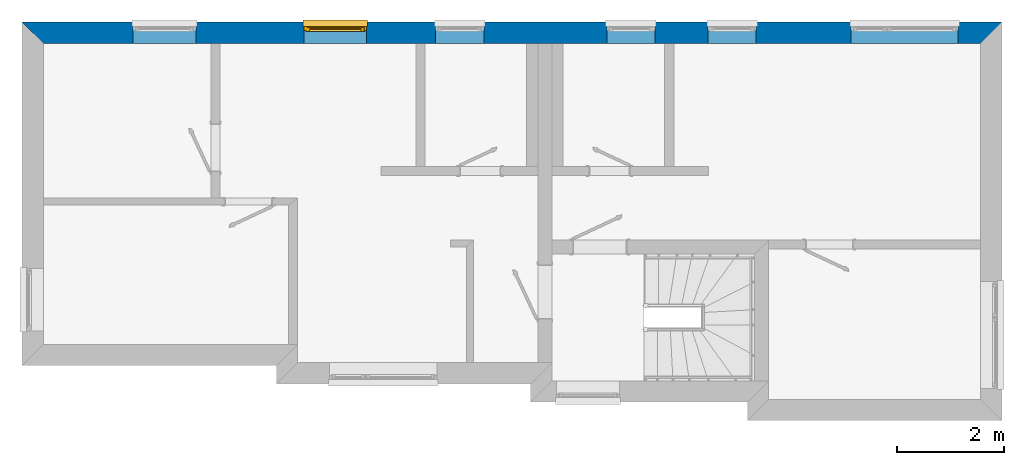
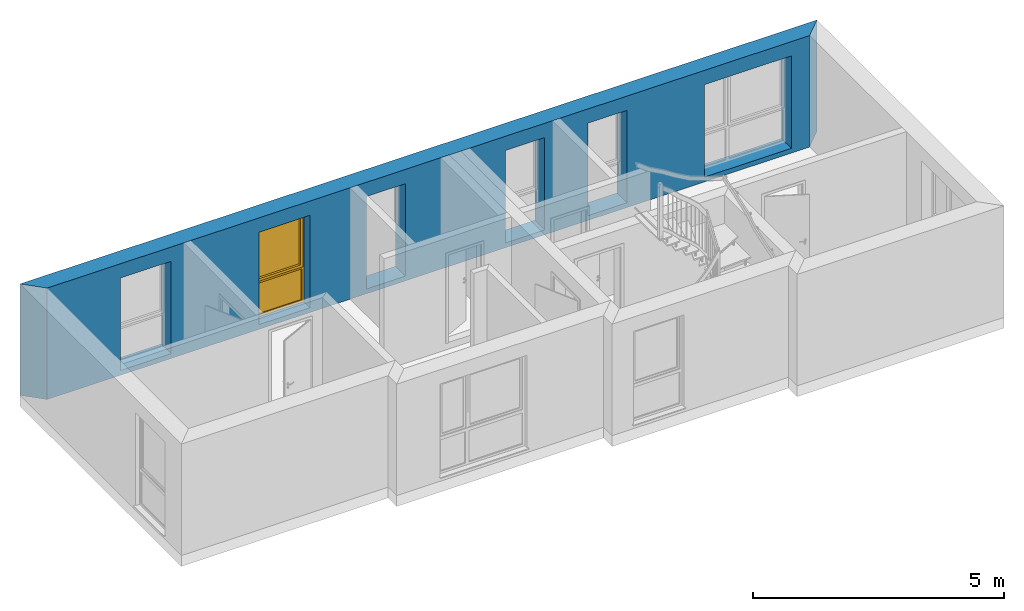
# One storey, part 10 of 16: 1 wall, 1 window, 6 openings.
"""IFC2X3 building model written with IfcOpenShell, lengths in millimetres."""

import ifcopenshell
import ifcopenshell.guid

model = None  # the IFC model being written
_history = None  # IfcOwnerHistory: only IFC2X3 demands one
_inside = {}  # id of a spatial element -> (the spatial element, [elements in it])
_under = {}  # id of a project, library or spatial element -> (it, [spatial elements below it])
_declared = {}  # id of a project -> (the project, [libraries it declares])
_typed = {}  # id of a type object -> (the type object, [elements of that type])
_made_of = {}  # id of a material, layer set ... -> (it, [elements and type objects made of it])


def new_model(schema):
    """Start an empty IFC model of exactly this schema.

    Asked for "IFC4X3", IfcOpenShell would pick the latest addendum, in which some entities
    have other attributes; the version numbers below select the first issue.
    IFC2X3 requires an IfcOwnerHistory on every rooted entity: one is made here for all.
    """
    global model, _history
    if schema == "IFC4X3":
        model = ifcopenshell.file(schema_version=(4, 3, 0, 0))
    else:
        model = ifcopenshell.file(schema=schema)
    _inside.clear()
    _under.clear()
    _declared.clear()
    _typed.clear()
    _made_of.clear()
    _history = None
    if model.schema == "IFC2X3":
        org = make("IfcOrganization", Name="unknown")
        user = make(
            "IfcPersonAndOrganization",
            ThePerson=make("IfcPerson", FamilyName="unknown"),
            TheOrganization=org,
        )
        app = make(
            "IfcApplication",
            ApplicationDeveloper=org,
            Version="unknown",
            ApplicationFullName="unknown",
            ApplicationIdentifier="unknown",
        )
        _history = make(
            "IfcOwnerHistory",
            OwningUser=user,
            OwningApplication=app,
            ChangeAction="ADDED",
            CreationDate=0,
        )
    return model


def make(cls, **values):
    """One entity of the class cls with the attributes given. An attribute that is None is left unset."""
    return model.create_entity(
        cls, **{name: value for name, value in values.items() if value is not None}
    )


def rooted(cls, **values):
    """An entity with a GlobalId (a new one), such as an element, a storey or a relation."""
    return make(cls, GlobalId=ifcopenshell.guid.new(), OwnerHistory=_history, **values)


def si_unit(unit_type, name, prefix=None):
    """IfcSIUnit, for example si_unit("LENGTHUNIT", "METRE", prefix="MILLI")."""
    return make("IfcSIUnit", UnitType=unit_type, Prefix=prefix, Name=name)


def assignment(units):
    """IfcUnitAssignment: the units of a project."""
    return None if units is None else make("IfcUnitAssignment", Units=units)


def point(xyz):
    """IfcCartesianPoint."""
    return None if xyz is None else make("IfcCartesianPoint", Coordinates=xyz)


def direction(xyz):
    """IfcDirection."""
    return None if xyz is None else make("IfcDirection", DirectionRatios=xyz)


def frame(location, z_axis=None, x_axis=None):
    """IfcAxis2Placement3D, a coordinate frame: its origin and axes. An axis left out is left unset."""
    return make(
        "IfcAxis2Placement3D",
        Location=point(location),
        Axis=direction(z_axis),
        RefDirection=direction(x_axis),
    )


def origin_with_axes():
    """The frame at (0, 0, 0) with the z axis (0, 0, 1) and the x axis (1, 0, 0) written out."""
    return frame((0.0, 0.0, 0.0), z_axis=(0.0, 0.0, 1.0), x_axis=(1.0, 0.0, 0.0))


def place(relative_to, where):
    """IfcLocalPlacement: puts the frame where relative to a parent placement (None: the world)."""
    return make(
        "IfcLocalPlacement", PlacementRelTo=relative_to, RelativePlacement=where
    )


def context(
    kind, dimensions, precision=None, world=None, true_north=None, identifier=None
):
    """IfcGeometricRepresentationContext, for example the 3D "Model" context."""
    return make(
        "IfcGeometricRepresentationContext",
        ContextIdentifier=identifier,
        ContextType=kind,
        CoordinateSpaceDimension=dimensions,
        Precision=precision,
        WorldCoordinateSystem=world,
        TrueNorth=true_north,
    )


def project(units=None, contexts=None):
    """IfcProject with its units and contexts."""
    return rooted(
        "IfcProject",
        Name="project",
        RepresentationContexts=contexts,
        UnitsInContext=assignment(units),
    )


def spatial(cls, under=None, at=None, **own):
    """A site, building, storey or space (cls), placed at a placement, below another one or the project."""
    s = rooted(cls, ObjectPlacement=at, **own)
    if under is not None:
        _under.setdefault(under.id(), (under, []))[1].append(s)
    return s


def faces_of(points, faces, orient=None, outer=None):
    """IfcFace entities. A face is a list of loops; a loop is a list of indices into points, from 0.

    orient and outer hold one flag for each loop. By default every Orientation is true, the
    first loop of a face is its IfcFaceOuterBound and the others are IfcFaceBound.
    """
    made = []
    for i, loops in enumerate(faces):
        bounds = []
        for j, loop in enumerate(loops):
            is_outer = j == 0 if outer is None else outer[i][j]
            bounds.append(
                make(
                    "IfcFaceOuterBound" if is_outer else "IfcFaceBound",
                    Bound=make("IfcPolyLoop", Polygon=[points[k] for k in loop]),
                    Orientation=True if orient is None else orient[i][j],
                )
            )
        made.append(make("IfcFace", Bounds=bounds))
    return made


def faceted_brep(points, faces, orient=None, outer=None, voids=None):
    """IfcFacetedBrep: a solid bounded by flat faces; with voids (closed shells), ...WithVoids."""
    shared = [point(p) for p in points]
    hull = make("IfcClosedShell", CfsFaces=faces_of(shared, faces, orient, outer))
    if voids is None:
        return make("IfcFacetedBrep", Outer=hull)
    return make(
        "IfcFacetedBrepWithVoids",
        Outer=hull,
        Voids=[
            make(cls, CfsFaces=faces_of(shared, fs, o, b)) for cls, fs, o, b in voids
        ],
    )


def shape(context_of_items, identifier, shape_type, items):
    """IfcShapeRepresentation: the items that make up one representation, for example the "Body"."""
    return make(
        "IfcShapeRepresentation",
        ContextOfItems=context_of_items,
        RepresentationIdentifier=identifier,
        RepresentationType=shape_type,
        Items=items,
    )


def material(Name=None, Category=None):
    """IfcMaterial."""
    return make("IfcMaterial", Name=Name, Category=Category)


def layer(
    of_material, thickness, ventilated=None, Name=None, Category=None, Priority=None
):
    """IfcMaterialLayer: one layer of a wall or slab, of a material (None: an air gap)."""
    return make(
        "IfcMaterialLayer",
        Material=of_material,
        LayerThickness=thickness,
        IsVentilated=ventilated,
        Name=Name,
        Category=Category,
        Priority=Priority,
    )


def layer_set(layers, Name=None):
    """IfcMaterialLayerSet."""
    return make("IfcMaterialLayerSet", MaterialLayers=layers, LayerSetName=Name)


def layer_usage(for_layer_set, set_direction, sense, offset, extent=None):
    """IfcMaterialLayerSetUsage: how a layer set lies in its element."""
    return make(
        "IfcMaterialLayerSetUsage",
        ForLayerSet=for_layer_set,
        LayerSetDirection=set_direction,
        DirectionSense=sense,
        OffsetFromReferenceLine=offset,
        ReferenceExtent=extent,
    )


def made_of(thing, what):
    """Note that an element or type object is made of a material, layer set ...; save() writes the relation."""
    if what is not None:
        _made_of.setdefault(what.id(), (what, []))[1].append(thing)
    return thing


def type_object(cls, material=None, **own):
    """A type object (cls), such as IfcWallType, which elements share."""
    return made_of(rooted(cls, **own), material)


def element(
    cls,
    number,
    at=None,
    inside=None,
    cuts=None,
    type_object=None,
    material=None,
    context=None,
    identifier="Body",
    shape_type=None,
    held_by="IfcProductDefinitionShape",
    body=None,
    shapes=None,
    **own,
):
    """One element of the class cls, such as IfcWall. Its Tag is "e" and its number.

    at: its placement. inside: the storey or other place that contains it. cuts: it is an
    opening in that element (IfcRelVoidsElement). A single representation is given by context,
    identifier, shape_type and body (its items); several are given by shapes. held_by: the class
    of the entity that holds the representations. save() writes the other relations.
    """
    e = rooted(cls, Tag="e%d" % number, ObjectPlacement=at, **own)
    if body is not None:
        shapes = [shape(context, identifier, shape_type, body)]
    if shapes is not None:
        e.Representation = make(held_by, Representations=shapes)
    if inside is not None:
        _inside.setdefault(inside.id(), (inside, []))[1].append(e)
    if cuts is not None:
        rooted(
            "IfcRelVoidsElement", RelatingBuildingElement=cuts, RelatedOpeningElement=e
        )
    if type_object is not None:
        _typed.setdefault(type_object.id(), (type_object, []))[1].append(e)
    return made_of(e, material)


def fill(opening, filler):
    """IfcRelFillsElement: the door or window that sits in an opening."""
    return rooted(
        "IfcRelFillsElement",
        RelatingOpeningElement=opening,
        RelatedBuildingElement=filler,
    )


def aggregate(whole, parts):
    """IfcRelAggregates: a whole, such as a stair, and the parts it consists of."""
    return rooted("IfcRelAggregates", RelatingObject=whole, RelatedObjects=parts)


def save(model, path):
    """Write the relations noted so far, then the file.

    IfcRelAggregates (storeys below a building ...), IfcRelContainedInSpatialStructure (elements
    in a storey), IfcRelDefinesByType, IfcRelAssociatesMaterial and IfcRelDeclares: one each for
    every whole, place, type object, material and project.
    """
    for whole, parts in _under.values():
        aggregate(whole, parts)
    for where, things in _inside.values():
        rooted(
            "IfcRelContainedInSpatialStructure",
            RelatedElements=things,
            RelatingStructure=where,
        )
    for kind, things in _typed.values():
        rooted("IfcRelDefinesByType", RelatedObjects=things, RelatingType=kind)
    for what, things in _made_of.values():
        rooted("IfcRelAssociatesMaterial", RelatedObjects=things, RelatingMaterial=what)
    for by, libraries in _declared.values():
        rooted("IfcRelDeclares", RelatingContext=by, RelatedDefinitions=libraries)
    model.write(path)


model = new_model("IFC2X3")

# Units and contexts
model_context = context("Model", 3, world=origin_with_axes())
ifc_project = project(units=[si_unit("LENGTHUNIT", "METRE", prefix="MILLI")], contexts=[model_context])

# Site, building, storey
site_placement = place(None, origin_with_axes())
site = spatial("IfcSite", under=ifc_project, at=site_placement, Name="Site", CompositionType="ELEMENT")
building_placement = place(site_placement, origin_with_axes())
building = spatial("IfcBuilding", under=site, at=building_placement, Name="?", CompositionType="ELEMENT")
storey_placement = place(building_placement, frame((0.0, 0.0, 2969.0), z_axis=(0.0, 0.0, 1.0), x_axis=(1.0, 0.0, 0.0)))
storey = spatial("IfcBuildingStorey", under=building, at=storey_placement, Name="Obergeschoß 1", CompositionType="ELEMENT", Elevation=2969.0)

# Wall, openings, window
ifc_material = material(Name="Material_AW")
ifc_layer = layer(ifc_material, 395.0, ventilated=False)
ifc_layer_set = layer_set([ifc_layer], Name="MaterialLayerSet_AW")
ifc_layer_usage = layer_usage(ifc_layer_set, "AXIS2", "NEGATIVE", 197.5)
wall_placement = place(storey_placement, frame((197.5, -197.5, 0.0), z_axis=(0.0, 0.0, 1.0), x_axis=(1.0, 0.0, 0.0)))
wall = element("IfcWall", 1, at=wall_placement, inside=storey, material=ifc_layer_usage, Name="AW-11", context=model_context, shape_type="Brep", body=[
    faceted_brep([(17707.5008600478, -197.5, 0.0), (17707.5008600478, -197.5, 2707.0), (197.5, -197.5, 2707.0), (197.5, -197.5, 0.0), (18102.5001275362, 197.499999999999, 0.0), (18102.5001275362, 197.499999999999, 2707.0), (17707.5008600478, -197.500000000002, 2707.0), (17707.5008600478, -197.500000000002, 0.0), (-197.500233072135, 197.5, 0.0), (-197.500233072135, 197.5, 2707.0), (18102.5001275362, 197.5, 2707.0), (18102.5001275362, 197.5, 0.0), (197.5, -197.5, 0.0), (197.5, -197.5, 2707.0), (-197.500233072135, 197.5, 2707.0), (-197.500233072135, 197.5, 0.0), (197.5, -197.5, 0.0), (-197.500233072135, 197.5, 0.0), (18102.5001275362, 197.5, 0.0), (17707.5008600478, -197.5, 0.0), (-197.500233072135, 197.5, 2707.0), (197.5, -197.5, 2707.0), (17707.5008600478, -197.5, 2707.0), (18102.5001275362, 197.5, 2707.0)], [[[0, 1, 2, 3]], [[4, 5, 6, 7]], [[8, 9, 10, 11]], [[12, 13, 14, 15]], [[16, 17, 18, 19]], [[20, 21, 22, 23]]]),
])
opening_1_placement = place(wall_placement, frame((5067.5, 0.0, 116.0), z_axis=(0.0, 0.0, 1.0), x_axis=(1.0, 0.0, 0.0)))
opening_1 = element("IfcOpeningElement", 2, at=opening_1_placement, cuts=wall, Name="AW-11|FE11", context=model_context, shape_type="Brep", body=[
    faceted_brep([(0.0, 207.5, 0.0), (0.0, 207.5, 2244.0), (1170.0, 207.5, 2244.0), (1170.0, 207.5, 0.0), (0.0, -207.5, 0.0), (0.0, -207.5, 2244.0), (0.0, 207.5, 2244.0), (0.0, 207.5, 0.0), (1170.0, -207.5, 0.0), (0.0, -207.5, 0.0), (0.0, 207.5, 0.0), (1170.0, 207.5, 0.0), (1170.0, -207.5, 2244.0), (1170.0, -207.5, 0.0), (1170.0, 207.5, 0.0), (1170.0, 207.5, 2244.0), (0.0, -207.5, 2244.0), (1170.0, -207.5, 2244.0), (1170.0, 207.5, 2244.0), (0.0, 207.5, 2244.0), (0.0, -207.5, 0.0), (1170.0, -207.5, 0.0), (1170.0, -207.5, 2244.0), (0.0, -207.5, 2244.0)], [[[0, 1, 2, 3]], [[4, 5, 6, 7]], [[8, 9, 10, 11]], [[12, 13, 14, 15]], [[16, 17, 18, 19]], [[20, 21, 22, 23]]]),
])
opening_2_placement = place(wall_placement, frame((10723.5, 0.0, 116.0), z_axis=(0.0, 0.0, 1.0), x_axis=(1.0, 0.0, 0.0)))
element("IfcOpeningElement", 3, at=opening_2_placement, cuts=wall, Name="AW-11|FE13", context=model_context, shape_type="Brep", body=[
    faceted_brep([(0.0, 207.5, 0.0), (0.0, 207.5, 2244.0), (900.0, 207.5, 2244.0), (900.0, 207.5, 0.0), (0.0, -207.5, 0.0), (0.0, -207.5, 2244.0), (0.0, 207.5, 2244.0), (0.0, 207.5, 0.0), (900.0, -207.5, 0.0), (0.0, -207.5, 0.0), (0.0, 207.5, 0.0), (900.0, 207.5, 0.0), (900.0, -207.5, 2244.0), (900.0, -207.5, 0.0), (900.0, 207.5, 0.0), (900.0, 207.5, 2244.0), (0.0, -207.5, 2244.0), (900.0, -207.5, 2244.0), (900.0, 207.5, 2244.0), (0.0, 207.5, 2244.0), (0.0, -207.5, 0.0), (900.0, -207.5, 0.0), (900.0, -207.5, 2244.0), (0.0, -207.5, 2244.0)], [[[0, 1, 2, 3]], [[4, 5, 6, 7]], [[8, 9, 10, 11]], [[12, 13, 14, 15]], [[16, 17, 18, 19]], [[20, 21, 22, 23]]]),
])
opening_3_placement = place(wall_placement, frame((12613.5, 0.0, 116.0), z_axis=(0.0, 0.0, 1.0), x_axis=(1.0, 0.0, 0.0)))
element("IfcOpeningElement", 4, at=opening_3_placement, cuts=wall, Name="AW-11|FE14", context=model_context, shape_type="Brep", body=[
    faceted_brep([(0.0, 207.5, 0.0), (0.0, 207.5, 2244.0), (900.0, 207.5, 2244.0), (900.0, 207.5, 0.0), (0.0, -207.5, 0.0), (0.0, -207.5, 2244.0), (0.0, 207.5, 2244.0), (0.0, 207.5, 0.0), (900.0, -207.5, 0.0), (0.0, -207.5, 0.0), (0.0, 207.5, 0.0), (900.0, 207.5, 0.0), (900.0, -207.5, 2244.0), (900.0, -207.5, 0.0), (900.0, 207.5, 0.0), (900.0, 207.5, 2244.0), (0.0, -207.5, 2244.0), (900.0, -207.5, 2244.0), (900.0, 207.5, 2244.0), (0.0, 207.5, 2244.0), (0.0, -207.5, 0.0), (900.0, -207.5, 0.0), (900.0, -207.5, 2244.0), (0.0, -207.5, 2244.0)], [[[0, 1, 2, 3]], [[4, 5, 6, 7]], [[8, 9, 10, 11]], [[12, 13, 14, 15]], [[16, 17, 18, 19]], [[20, 21, 22, 23]]]),
])
opening_4_placement = place(wall_placement, frame((15287.5, 0.0, 116.0), z_axis=(0.0, 0.0, 1.0), x_axis=(1.0, 0.0, 0.0)))
element("IfcOpeningElement", 5, at=opening_4_placement, cuts=wall, Name="AW-11|FE15", context=model_context, shape_type="Brep", body=[
    faceted_brep([(0.0, 207.5, 0.0), (0.0, 207.5, 2244.0), (2000.0, 207.5, 2244.0), (2000.0, 207.5, 0.0), (0.0, -207.5, 0.0), (0.0, -207.5, 2244.0), (0.0, 207.5, 2244.0), (0.0, 207.5, 0.0), (2000.0, -207.5, 0.0), (0.0, -207.5, 0.0), (0.0, 207.5, 0.0), (2000.0, 207.5, 0.0), (2000.0, -207.5, 2244.0), (2000.0, -207.5, 0.0), (2000.0, 207.5, 0.0), (2000.0, 207.5, 2244.0), (0.0, -207.5, 2244.0), (2000.0, -207.5, 2244.0), (2000.0, 207.5, 2244.0), (0.0, 207.5, 2244.0), (0.0, -207.5, 0.0), (2000.0, -207.5, 0.0), (2000.0, -207.5, 2244.0), (0.0, -207.5, 2244.0)], [[[0, 1, 2, 3]], [[4, 5, 6, 7]], [[8, 9, 10, 11]], [[12, 13, 14, 15]], [[16, 17, 18, 19]], [[20, 21, 22, 23]]]),
])
opening_5_placement = place(wall_placement, frame((7527.5, 0.0, 116.0), z_axis=(0.0, 0.0, 1.0), x_axis=(1.0, 0.0, 0.0)))
element("IfcOpeningElement", 6, at=opening_5_placement, cuts=wall, Name="AW-11|FE12", context=model_context, shape_type="Brep", body=[
    faceted_brep([(0.0, 207.5, 0.0), (0.0, 207.5, 2244.0), (900.0, 207.5, 2244.0), (900.0, 207.5, 0.0), (0.0, -207.5, 0.0), (0.0, -207.5, 2244.0), (0.0, 207.5, 2244.0), (0.0, 207.5, 0.0), (900.0, -207.5, 0.0), (0.0, -207.5, 0.0), (0.0, 207.5, 0.0), (900.0, 207.5, 0.0), (900.0, -207.5, 2244.0), (900.0, -207.5, 0.0), (900.0, 207.5, 0.0), (900.0, 207.5, 2244.0), (0.0, -207.5, 2244.0), (900.0, -207.5, 2244.0), (900.0, 207.5, 2244.0), (0.0, 207.5, 2244.0), (0.0, -207.5, 0.0), (900.0, -207.5, 0.0), (900.0, -207.5, 2244.0), (0.0, -207.5, 2244.0)], [[[0, 1, 2, 3]], [[4, 5, 6, 7]], [[8, 9, 10, 11]], [[12, 13, 14, 15]], [[16, 17, 18, 19]], [[20, 21, 22, 23]]]),
])
opening_6_placement = place(wall_placement, frame((1877.5, 0.0, 116.0), z_axis=(0.0, 0.0, 1.0), x_axis=(1.0, 0.0, 0.0)))
element("IfcOpeningElement", 7, at=opening_6_placement, cuts=wall, Name="AW-11|FE10", context=model_context, shape_type="Brep", body=[
    faceted_brep([(0.0, 207.5, 0.0), (0.0, 207.5, 2244.0), (1170.0, 207.5, 2244.0), (1170.0, 207.5, 0.0), (0.0, -207.5, 0.0), (0.0, -207.5, 2244.0), (0.0, 207.5, 2244.0), (0.0, 207.5, 0.0), (1170.0, -207.5, 0.0), (0.0, -207.5, 0.0), (0.0, 207.5, 0.0), (1170.0, 207.5, 0.0), (1170.0, -207.5, 2244.0), (1170.0, -207.5, 0.0), (1170.0, 207.5, 0.0), (1170.0, 207.5, 2244.0), (0.0, -207.5, 2244.0), (1170.0, -207.5, 2244.0), (1170.0, 207.5, 2244.0), (0.0, 207.5, 2244.0), (0.0, -207.5, 0.0), (1170.0, -207.5, 0.0), (1170.0, -207.5, 2244.0), (0.0, -207.5, 2244.0)], [[[0, 1, 2, 3]], [[4, 5, 6, 7]], [[8, 9, 10, 11]], [[12, 13, 14, 15]], [[16, 17, 18, 19]], [[20, 21, 22, 23]]]),
])
window_style = type_object("IfcWindowStyle", Name="FE11", ConstructionType="NOTDEFINED", OperationType="DOUBLE_PANEL_HORIZONTAL", ParameterTakesPrecedence=True, Sizeable=False)
window_placement = place(opening_1_placement, frame((1170.0, 77.5, 0.0), z_axis=(0.0, 0.0, 1.0), x_axis=(-1.0, 0.0, 0.0)))
window = element("IfcWindow", 8, at=window_placement, inside=storey, type_object=window_style, Name="FE11", OverallHeight=2244.0, OverallWidth=1170.0, context=model_context, shape_type="Brep", body=[
    faceted_brep([(0.0, -36.0, 0.0), (1170.0, -36.0, 0.0), (1155.0, -36.0, 15.0), (15.0, -36.0, 15.0), (15.00048828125, 36.0, 15.0), (1155.00048828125, 36.0, 15.0), (1170.00048828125, 36.0, 0.0), (0.00048828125, 36.0, 0.0), (0.0, 36.0, 0.0), (1170.0, 36.0, 0.0), (1170.0, -36.0, 0.0), (0.0, -36.0, 0.0), (1170.0, -36.0, 0.0), (1170.0, -36.0, 2244.0), (1155.0, -36.0, 2229.0), (1155.0, -36.0, 15.0), (1155.0, 36.0, 15.0), (1155.0, 36.0, 2229.0), (1170.0, 36.0, 2244.0), (1170.0, 36.0, 0.0), (1170.0, 36.0, 0.0), (1170.0, 36.0, 2244.0), (1170.0, -36.0, 2244.0), (1170.0, -36.0, 0.0), (1170.0, -36.0, 2244.0), (0.0, -36.0, 2244.0), (15.0, -36.0, 2229.0), (1155.0, -36.0, 2229.0), (1154.99951171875, 36.0, 2229.0), (14.99951171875, 36.0, 2229.0), (-0.00048828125, 36.0, 2244.0), (1169.99951171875, 36.0, 2244.0), (1170.0, 36.0, 2244.0), (0.0, 36.0, 2244.0), (0.0, -36.0, 2244.0), (1170.0, -36.0, 2244.0), (0.0, -36.0, 2244.0), (0.0, -36.0, 0.0), (15.0, -36.0, 15.0), (15.0, -36.0, 2229.0), (15.0, 36.0, 2229.0), (15.0, 36.0, 15.0), (0.0, 36.0, 0.0), (0.0, 36.0, 2244.0), (0.0, 36.0, 2244.0), (0.0, 36.0, 0.0), (0.0, -36.0, 0.0), (0.0, -36.0, 2244.0), (1155.0, 36.0, 15.0), (15.0, 36.0, 15.0), (53.0, 36.0, 53.0), (1117.0, 36.0, 53.0), (1117.0, 36.0, 53.0), (53.0000000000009, 36.0, 53.0), (60.0000000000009, 24.9985352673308, 60.0009767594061), (1110.0, 24.9985352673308, 60.0009767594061), (1110.0, 25.0, 60.0), (60.0, 25.0, 60.0), (60.0, 12.0, 60.0), (1110.0, 12.0, 60.0), (1110.0, -12.0, 60.0), (60.0, -12.0, 60.0), (60.0, -25.0, 60.0), (1110.0, -25.0, 60.0), (1110.0, 12.0, 60.0), (60.0, 12.0, 60.0), (43.0, 12.0, 43.0), (1127.0, 12.0, 43.0), (1127.0, 12.0, 43.0), (43.0, 12.0, 43.0), (43.0, -12.0, 43.0), (1127.0, -12.0, 43.0), (1127.0, -12.0, 43.0), (43.0, -12.0, 43.0), (60.0, -12.0, 60.0), (1110.0, -12.0, 60.0), (1110.0, -25.0, 60.0), (60.0, -25.0, 60.0), (53.0, -36.0014647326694, 52.9990232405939), (1117.0, -36.0014647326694, 52.9990232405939), (1117.0, -36.0, 53.0), (53.0, -36.0, 53.0), (15.0, -36.0, 15.0), (1155.0, -36.0, 15.0), (1155.0, 36.0, 855.0), (1155.0, 36.0, 15.0), (1117.0, 36.0, 53.0), (1117.0, 36.0, 817.0), (1117.0, 36.0, 817.0), (1117.0, 36.0, 53.0), (1109.99902324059, 24.9985352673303, 60.0), (1109.99902324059, 24.9985352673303, 810.0), (1110.0, 25.0, 810.0), (1110.0, 25.0, 60.0), (1110.0, 12.0, 60.0), (1110.0, 12.0, 810.0), (1110.0, -12.0, 810.0), (1110.0, -12.0, 60.0), (1110.0, -25.0, 60.0), (1110.0, -25.0, 810.0), (1110.0, 12.0, 810.0), (1110.0, 12.0, 60.0), (1127.0, 12.0, 43.0), (1127.0, 12.0, 827.0), (1127.0, 12.0, 827.000244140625), (1127.0, 12.0, 43.000244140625), (1127.0, -12.0, 43.000244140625), (1127.0, -12.0, 827.000244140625), (1127.0, -12.0, 827.000244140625), (1127.0, -12.0, 43.000244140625), (1110.0, -12.0, 60.000244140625), (1110.0, -12.0, 810.000244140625), (1110.0, -25.0, 810.0), (1110.0, -25.0, 60.0), (1117.00097675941, -36.0014647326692, 53.0), (1117.00097675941, -36.0014647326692, 817.0), (1117.0, -36.0, 817.0), (1117.0, -36.0, 53.0), (1155.0, -36.0, 15.0), (1155.0, -36.0, 855.0), (15.0, 36.0, 855.0), (43.0, 36.0, 883.0), (1127.0, 36.0, 883.0), (1155.0, 36.0, 855.0), (1117.0, 36.0, 817.0), (53.0, 36.0, 817.0), (53.0000000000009, 36.0, 817.0), (1117.0, 36.0, 817.0), (1110.0, 24.9985352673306, 809.999023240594), (60.0000000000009, 24.9985352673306, 809.999023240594), (60.0, 25.0, 810.0), (1110.0, 25.0, 810.0), (1110.0, 12.0, 810.0), (60.0, 12.0, 810.0), (60.0, -12.0, 810.0), (1110.0, -12.0, 810.0), (1110.0, -25.0, 810.0), (60.0, -25.0, 810.0), (60.0, 12.0, 810.0), (1110.0, 12.0, 810.0), (1127.0, 12.0, 827.0), (43.0, 12.0, 827.0), (43.0, 12.0, 827.0), (1127.0, 12.0, 827.0), (1127.0, -12.0, 827.0), (43.0, -12.0, 827.0), (43.0, -12.0, 827.0), (1127.0, -12.0, 827.0), (1110.0, -12.0, 810.0), (60.0, -12.0, 810.0), (59.9999999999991, -25.0, 810.0), (1110.0, -25.0, 810.0), (1117.0, -36.0014647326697, 817.000976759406), (52.9999999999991, -36.0014647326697, 817.000976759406), (53.0, -36.0, 817.0), (1117.0, -36.0, 817.0), (1155.0, -36.0, 855.0), (1117.0, -36.0, 893.0), (53.0, -36.0, 893.0), (15.0, -36.0, 855.0), (1127.0, 36.0, 883.0), (43.0, 36.0, 883.0), (43.0, -21.0, 883.0), (1127.0, -21.0, 883.0), (1127.0, -21.0, 883.0), (43.0, -21.0, 883.0), (60.0, -21.0, 900.0), (1110.0, -21.0, 900.0), (1110.0, -21.0, 900.0), (60.0, -21.0, 900.0), (60.0, -25.0, 900.0), (1110.0, -25.0, 900.0), (1110.0, -25.0, 900.0), (59.9999999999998, -25.0, 900.0), (52.9999999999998, -36.0014647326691, 892.999023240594), (1117.0, -36.0014647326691, 892.999023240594), (15.0, 36.0, 15.0), (15.0, 36.0, 855.0), (53.0, 36.0, 817.0), (53.0, 36.0, 53.0), (53.0, 36.0, 52.99951171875), (53.0, 36.0, 816.99951171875), (60.0009767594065, 24.9985352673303, 809.99951171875), (60.0009767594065, 24.9985352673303, 59.99951171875), (60.0, 25.0, 60.0), (60.0, 25.0, 810.0), (60.0, 12.0, 810.0), (60.0, 12.0, 60.0), (60.0, -12.0, 60.0), (60.0, -12.0, 810.0), (60.0, -25.0, 810.0), (60.0, -25.0, 60.0), (60.0, 12.0, 60.0), (60.0, 12.0, 810.0), (43.0, 12.0, 827.0), (43.0, 12.0, 43.0), (43.0, 12.0, 42.999755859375), (43.0, 12.0, 826.999755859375), (43.0, -12.0, 826.999755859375), (43.0, -12.0, 42.999755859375), (43.0, -12.0, 42.999755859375), (43.0, -12.0, 826.999755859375), (60.0, -12.0, 809.999755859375), (60.0, -12.0, 59.999755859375), (60.0, -25.0, 60.0), (60.0, -25.0, 810.0), (52.9990234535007, -36.0012210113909, 817.0), (52.9990234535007, -36.0012210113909, 53.0), (53.0, -36.0, 52.99951171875), (53.0, -36.0, 816.99951171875), (15.0, -36.0, 854.99951171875), (15.0, -36.0, 14.99951171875), (1155.0, 36.0, 2229.0), (1155.0, 36.0, 855.0), (1127.0, 36.0, 883.0), (1127.0, 36.0, 2201.0), (1127.0, 36.0, 2201.0), (1127.0, 36.0, 883.0), (1127.0, -21.0, 883.0), (1127.0, -21.0, 2201.0), (1127.0, -21.0, 2201.0), (1127.0, -21.0, 883.0), (1110.0, -21.0, 900.0), (1110.0, -21.0, 2184.0), (1110.0, -21.0, 2184.00048828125), (1110.0, -21.0, 900.00048828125), (1110.0, -25.0, 900.00048828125), (1110.0, -25.0, 2184.00048828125), (1110.0, -25.0, 2184.00048828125), (1110.0, -25.0, 900.000488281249), (1117.00097675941, -36.0014647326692, 893.000488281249), (1117.00097675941, -36.0014647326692, 2191.00048828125), (1117.0, -36.0, 2191.00048828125), (1117.0, -36.0, 893.00048828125), (1155.0, -36.0, 855.00048828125), (1155.0, -36.0, 2229.00048828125), (15.0, 36.0, 2229.0), (1155.0, 36.0, 2229.0), (1127.0, 36.0, 2201.0), (43.0, 36.0, 2201.0), (43.0, 36.0, 2201.0), (1127.0, 36.0, 2201.0), (1127.0, -21.0, 2201.0), (43.0, -21.0, 2201.0), (43.0, -21.0, 2201.0), (1127.0, -21.0, 2201.0), (1110.0, -21.0, 2184.0), (60.0, -21.0, 2184.0), (60.0, -21.0, 2184.0), (1110.0, -21.0, 2184.0), (1110.0, -25.0, 2184.0), (60.0, -25.0, 2184.0), (60.0, -25.0, 2184.0), (1110.0, -25.0, 2184.0), (1117.0, -36.0014647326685, 2191.00097675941), (53.0, -36.0014647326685, 2191.00097675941), (53.0, -36.0, 2191.0), (1117.0, -36.0, 2191.0), (1155.0, -36.0, 2229.0), (15.0, -36.0, 2229.0), (15.0, 36.0, 855.0), (15.0, 36.0, 2229.0), (43.0, 36.0, 2201.0), (43.0, 36.0, 883.0), (43.0, 36.0, 882.999755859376), (43.0, 36.0, 2201.0), (43.0004882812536, -21.0000000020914, 2201.0), (43.0004882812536, -21.0000000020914, 882.999755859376), (43.0, -21.0, 882.999755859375), (43.0, -21.0, 2201.0), (60.0, -21.0, 2184.0), (60.0, -21.0, 899.999755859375), (60.0, -21.0, 900.0), (60.0, -21.0, 2184.0), (60.0, -25.0, 2184.0), (60.0, -25.0, 900.0), (60.0, -25.0, 900.0), (60.0, -25.0, 2184.0), (52.9990232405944, -36.0014647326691, 2191.0), (52.9990232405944, -36.0014647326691, 893.0), (53.0, -36.0, 893.0), (53.0, -36.0, 2191.0), (15.0, -36.0, 2229.0), (15.0, -36.0, 855.0), (1137.0, 52.0, 873.0), (33.0, 52.0, 873.0), (96.0, 52.0, 936.0), (1074.0, 52.0, 936.0), (1074.0, 52.0, 936.0), (96.0, 52.0, 936.0), (110.0, 19.9985360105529, 950.00048798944), (1060.0, 19.9985360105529, 950.00048798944), (1060.0, 20.0, 950.0), (110.0, 20.0, 950.0), (103.0, 20.0, 943.0), (1067.0, 20.0, 943.0), (1067.0, 20.0, 943.0), (103.0, 20.0, 943.0), (103.0, -4.0, 943.0), (1067.0, -4.0, 943.0), (1067.0, -4.0, 943.0), (103.0, -4.0, 943.0), (110.0, -4.0, 950.0), (1060.0, -4.0, 950.0), (1060.0, -4.0, 950.0), (110.000000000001, -4.0, 950.0), (102.000000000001, -21.0014648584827, 941.999267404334), (1068.0, -21.0014648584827, 941.999267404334), (1068.0, -21.0, 942.0), (102.0, -21.0, 942.0), (51.0, -21.0, 891.0), (1119.0, -21.0, 891.0), (1119.0, -21.0, 891.0), (51.0, -21.0, 891.0), (51.0, 36.0, 891.0), (1119.0, 36.0, 891.0), (1119.0, 36.0, 891.0), (51.0, 36.0, 891.0), (33.0, 36.0, 873.0), (1137.0, 36.0, 873.0), (1137.0, 36.0, 873.0), (33.0, 36.0, 873.0), (33.0, 52.0, 873.0), (1137.0, 52.0, 873.0), (1137.0, 52.0, 2211.00048828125), (1137.0, 52.0, 873.00048828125), (1074.0, 52.0, 936.00048828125), (1074.0, 52.0, 2148.00048828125), (1074.0, 52.0, 2148.0), (1074.0, 52.0, 936.0), (1059.99951201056, 19.9985360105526, 950.0), (1059.99951201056, 19.9985360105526, 2134.0), (1060.0, 20.0, 2134.00048828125), (1060.0, 20.0, 950.00048828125), (1067.0, 20.0, 943.00048828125), (1067.0, 20.0, 2141.00048828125), (1067.0, 20.0, 2141.0), (1067.0, 20.0, 943.0), (1067.0, -4.0, 943.0), (1067.0, -4.0, 2141.0), (1067.0, -4.0, 2141.0), (1067.0, -4.0, 943.0), (1060.0, -4.0, 950.0), (1060.0, -4.0, 2134.0), (1060.0, -4.0, 2134.00048828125), (1060.0, -4.0, 950.00048828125), (1068.00048841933, -21.0014648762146, 942.00048828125), (1068.00048841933, -21.0014648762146, 2142.00048828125), (1068.0, -21.0, 2142.0), (1068.0, -21.0, 942.0), (1119.0, -21.0, 891.0), (1119.0, -21.0, 2193.0), (1119.0, -21.0, 2193.0), (1119.0, -21.0, 891.0), (1119.0, 36.0, 891.0), (1119.0, 36.0, 2193.0), (1119.0, 36.0, 2193.0), (1119.0, 36.0, 891.0), (1137.0, 36.0, 873.0), (1137.0, 36.0, 2211.0), (1137.0, 36.0, 2211.00048828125), (1137.0, 36.0, 873.00048828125), (1137.0, 52.0, 873.00048828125), (1137.0, 52.0, 2211.00048828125), (33.0, 52.0, 2211.0), (1137.0, 52.0, 2211.0), (1074.0, 52.0, 2148.0), (96.0, 52.0, 2148.0), (96.0, 52.0, 2148.0), (1074.0, 52.0, 2148.0), (1060.0, 19.9985360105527, 2133.99951201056), (110.0, 19.9985360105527, 2133.99951201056), (110.0, 20.0, 2134.0), (1060.0, 20.0, 2134.0), (1067.0, 20.0, 2141.0), (103.0, 20.0, 2141.0), (103.0, 20.0, 2141.0), (1067.0, 20.0, 2141.0), (1067.0, -4.0, 2141.0), (103.0, -4.0, 2141.0), (103.0, -4.0, 2141.0), (1067.0, -4.0, 2141.0), (1060.0, -4.0, 2134.0), (110.0, -4.0, 2134.0), (110.0, -4.0, 2134.0), (1060.0, -4.0, 2134.0), (1068.0, -21.0014648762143, 2142.00048841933), (102.0, -21.0014648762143, 2142.00048841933), (102.0, -21.0, 2142.0), (1068.0, -21.0, 2142.0), (1119.0, -21.0, 2193.0), (51.0, -21.0, 2193.0), (51.0, -21.0, 2193.0), (1119.0, -21.0, 2193.0), (1119.0, 36.0, 2193.0), (51.0, 36.0, 2193.0), (51.0, 36.0, 2193.0), (1119.0, 36.0, 2193.0), (1137.0, 36.0, 2211.0), (33.0, 36.0, 2211.0), (33.0, 36.0, 2211.0), (1137.0, 36.0, 2211.0), (1137.0, 52.0, 2211.0), (33.0, 52.0, 2211.0), (33.0, 52.0, 872.999755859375), (33.0, 52.0, 2211.0), (96.0, 52.0, 2148.0), (96.0, 52.0, 935.999755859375), (96.0, 51.9999999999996, 935.999755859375), (96.0, 51.9999999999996, 2148.0), (110.00048798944, 19.9985360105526, 2134.0), (110.00048798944, 19.9985360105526, 949.999755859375), (110.0, 20.0, 949.999755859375), (110.0, 20.0, 2134.0), (103.0, 20.0, 2141.0), (103.0, 20.0, 942.999755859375), (103.0, 20.0, 942.999755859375), (103.0, 20.0, 2141.0), (103.0, -4.0, 2141.0), (103.0, -4.0, 942.999755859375), (103.0, -4.0, 942.999755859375), (103.0, -4.0, 2141.0), (110.0, -4.0, 2134.0), (110.0, -4.0, 949.999755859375), (110.0, -4.0, 949.999755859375), (110.0, -4.0, 2134.0), (101.999511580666, -21.0014648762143, 2142.0), (101.999511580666, -21.0014648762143, 941.999755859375), (102.0, -21.0, 942.0), (102.0, -21.0, 2142.0), (51.0, -21.0, 2193.0), (51.0, -21.0, 891.0), (51.0, -21.0, 890.999755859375), (51.0, -21.0, 2193.0), (51.0, 36.0, 2193.0), (51.0, 36.0, 890.999755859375), (51.0, 36.0, 890.999755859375), (51.0, 36.0, 2193.0), (33.0, 36.0, 2211.0), (33.0, 36.0, 872.999755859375), (33.0, 36.0, 872.999755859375), (33.0, 36.0, 2211.0), (33.00048828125, 52.0000000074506, 2211.0), (33.00048828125, 52.0000000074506, 872.999755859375), (60.0, 12.0, 60.0), (60.0, 12.0, 810.0), (1110.0, 12.0, 810.0), (1110.0, 12.0, 60.0), (60.0, -12.0, 60.0), (1110.0, -12.0, 60.0), (1110.0, -12.0, 810.0), (60.0, -12.0, 810.0), (110.0, 20.0, 950.0), (110.0, 20.0, 2134.0), (1060.0, 20.0, 2134.0), (1060.0, 20.0, 950.0), (110.0, -4.0, 950.0), (1060.0, -4.0, 950.0), (1060.0, -4.0, 2134.0), (110.0, -4.0, 2134.0), (-20.0, -36.0, 0.5), (-20.0, -160.0, 0.5), (1190.0, -160.0, 0.5), (1190.0, -36.0, 0.5), (-20.0, -36.0, -19.5), (-20.0, -36.0, 0.5), (1190.0, -36.0, 0.5), (1190.0, -36.0, -19.5), (-20.0, -160.0, -19.5), (-20.0, -36.0, -19.5), (1190.0, -36.0, -19.5), (1190.0, -160.0, -19.5), (-20.0, -160.0, 0.5), (-20.0, -160.0, -19.5), (1190.0, -160.0, -19.5), (1190.0, -160.0, 0.5), (-20.0, -160.0, -19.5), (-20.0, -160.0, 0.5), (-20.0, -36.0, 0.5), (-20.0, -36.0, -19.5), (1190.0, -160.0, 0.5), (1190.0, -160.0, -19.5), (1190.0, -36.0, -19.5), (1190.0, -36.0, 0.5)], [[[0, 1, 2, 3]], [[4, 5, 6, 7]], [[8, 9, 10, 11]], [[12, 13, 14, 15]], [[16, 17, 18, 19]], [[20, 21, 22, 23]], [[24, 25, 26, 27]], [[28, 29, 30, 31]], [[32, 33, 34, 35]], [[36, 37, 38, 39]], [[40, 41, 42, 43]], [[44, 45, 46, 47]], [[48, 49, 50, 51]], [[52, 53, 54, 55]], [[56, 57, 58, 59]], [[60, 61, 62, 63]], [[64, 65, 66, 67]], [[68, 69, 70, 71]], [[72, 73, 74, 75]], [[76, 77, 78, 79]], [[80, 81, 82, 83]], [[84, 85, 86, 87]], [[88, 89, 90, 91]], [[92, 93, 94, 95]], [[96, 97, 98, 99]], [[100, 101, 102, 103]], [[104, 105, 106, 107]], [[108, 109, 110, 111]], [[112, 113, 114, 115]], [[116, 117, 118, 119]], [[120, 121, 122, 123, 124, 125]], [[126, 127, 128, 129]], [[130, 131, 132, 133]], [[134, 135, 136, 137]], [[138, 139, 140, 141]], [[142, 143, 144, 145]], [[146, 147, 148, 149]], [[150, 151, 152, 153]], [[154, 155, 156, 157, 158, 159]], [[160, 161, 162, 163]], [[164, 165, 166, 167]], [[168, 169, 170, 171]], [[172, 173, 174, 175]], [[176, 177, 178, 179]], [[180, 181, 182, 183]], [[184, 185, 186, 187]], [[188, 189, 190, 191]], [[192, 193, 194, 195]], [[196, 197, 198, 199]], [[200, 201, 202, 203]], [[204, 205, 206, 207]], [[208, 209, 210, 211]], [[212, 213, 214, 215]], [[216, 217, 218, 219]], [[220, 221, 222, 223]], [[224, 225, 226, 227]], [[228, 229, 230, 231]], [[232, 233, 234, 235]], [[236, 237, 238, 239]], [[240, 241, 242, 243]], [[244, 245, 246, 247]], [[248, 249, 250, 251]], [[252, 253, 254, 255]], [[256, 257, 258, 259]], [[260, 261, 262, 263]], [[264, 265, 266, 267]], [[268, 269, 270, 271]], [[272, 273, 274, 275]], [[276, 277, 278, 279]], [[280, 281, 282, 283]], [[284, 285, 286, 287]], [[288, 289, 290, 291]], [[292, 293, 294, 295]], [[296, 297, 298, 299]], [[300, 301, 302, 303]], [[304, 305, 306, 307]], [[308, 309, 310, 311]], [[312, 313, 314, 315]], [[316, 317, 318, 319]], [[320, 321, 322, 323]], [[324, 325, 326, 327]], [[328, 329, 330, 331]], [[332, 333, 334, 335]], [[336, 337, 338, 339]], [[340, 341, 342, 343]], [[344, 345, 346, 347]], [[348, 349, 350, 351]], [[352, 353, 354, 355]], [[356, 357, 358, 359]], [[360, 361, 362, 363]], [[364, 365, 366, 367]], [[368, 369, 370, 371]], [[372, 373, 374, 375]], [[376, 377, 378, 379]], [[380, 381, 382, 383]], [[384, 385, 386, 387]], [[388, 389, 390, 391]], [[392, 393, 394, 395]], [[396, 397, 398, 399]], [[400, 401, 402, 403]], [[404, 405, 406, 407]], [[408, 409, 410, 411]], [[412, 413, 414, 415]], [[416, 417, 418, 419]], [[420, 421, 422, 423]], [[424, 425, 426, 427]], [[428, 429, 430, 431]], [[432, 433, 434, 435]], [[436, 437, 438, 439]], [[440, 441, 442, 443]], [[444, 445, 446, 447]], [[448, 449, 450, 451]], [[452, 453, 454, 455]], [[456, 457, 458, 459]], [[460, 461, 462, 463]], [[464, 465, 466, 467]], [[468, 469, 470, 471]], [[472, 473, 474, 475]], [[476, 477, 478, 479]], [[480, 481, 482, 483]]]),
])
fill(opening_1, window)

save(model, "model.ifc")
